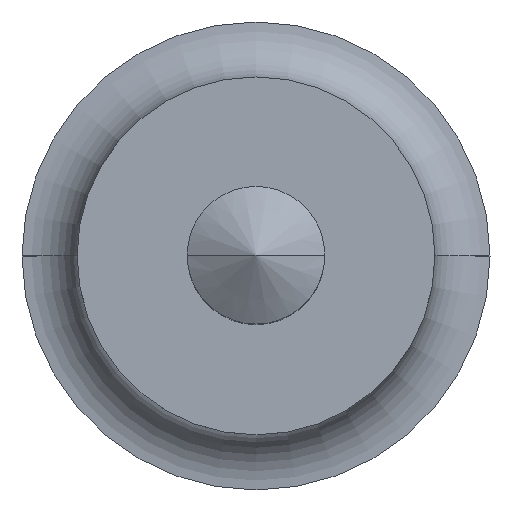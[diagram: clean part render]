
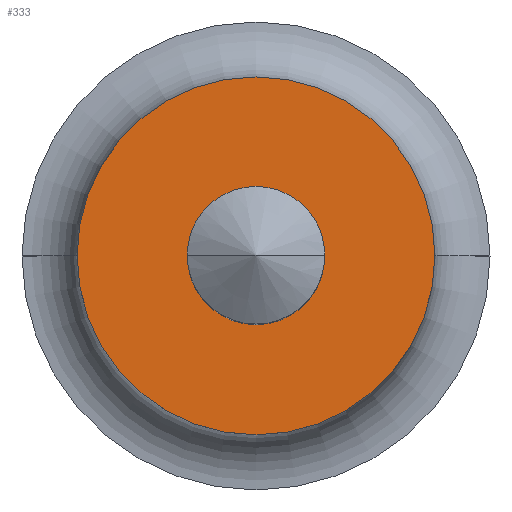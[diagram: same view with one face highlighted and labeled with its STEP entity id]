
A CAD part, top view. The second image highlights one B-rep face of the part: STEP entity #333.
In plain terms, the highlighted planar face has unit normal (0, 0, 1).
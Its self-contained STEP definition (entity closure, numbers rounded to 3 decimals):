
#5 = DIRECTION ( 'NONE',  ( 0., 0., 1. ) ) ;
#21 = EDGE_LOOP ( 'NONE', ( #165, #77 ) ) ;
#30 = CARTESIAN_POINT ( 'NONE',  ( -6.5, 0., 3. ) ) ;
#38 = EDGE_CURVE ( 'NONE', #335, #56, #269, .T. ) ;
#40 = DIRECTION ( 'NONE',  ( 1., 0., 0. ) ) ;
#44 = DIRECTION ( 'NONE',  ( 1., 0., 0. ) ) ;
#56 = VERTEX_POINT ( 'NONE', #408 ) ;
#57 = EDGE_LOOP ( 'NONE', ( #235, #108 ) ) ;
#59 = EDGE_CURVE ( 'NONE', #56, #335, #421, .T. ) ;
#63 = FACE_BOUND ( 'NONE', #57, .T. ) ;
#67 = CARTESIAN_POINT ( 'NONE',  ( 0., 0., 3. ) ) ;
#77 = ORIENTED_EDGE ( 'NONE', *, *, #292, .T. ) ;
#87 = AXIS2_PLACEMENT_3D ( 'NONE', #176, #407, #281 ) ;
#108 = ORIENTED_EDGE ( 'NONE', *, *, #59, .F. ) ;
#115 = CARTESIAN_POINT ( 'NONE',  ( 0., 0., 3. ) ) ;
#134 = DIRECTION ( 'NONE',  ( 1., 0., 0. ) ) ;
#139 = DIRECTION ( 'NONE',  ( 0., 0., 1. ) ) ;
#145 = CARTESIAN_POINT ( 'NONE',  ( 0., 0., 3. ) ) ;
#159 = FACE_OUTER_BOUND ( 'NONE', #21, .T. ) ;
#165 = ORIENTED_EDGE ( 'NONE', *, *, #296, .T. ) ;
#176 = CARTESIAN_POINT ( 'NONE',  ( 2.5, 0., 3. ) ) ;
#183 = DIRECTION ( 'NONE',  ( 0., 0., 1. ) ) ;
#189 = AXIS2_PLACEMENT_3D ( 'NONE', #243, #5, #40 ) ;
#208 = AXIS2_PLACEMENT_3D ( 'NONE', #67, #139, #134 ) ;
#230 = VERTEX_POINT ( 'NONE', #30 ) ;
#235 = ORIENTED_EDGE ( 'NONE', *, *, #38, .F. ) ;
#243 = CARTESIAN_POINT ( 'NONE',  ( 0., 0., 3. ) ) ;
#248 = DIRECTION ( 'NONE',  ( 1., 0., 0. ) ) ;
#252 = PLANE ( 'NONE',  #87 ) ;
#269 = CIRCLE ( 'NONE', #307, 2.5 ) ;
#281 = DIRECTION ( 'NONE',  ( 1., 0., 0. ) ) ;
#286 = CARTESIAN_POINT ( 'NONE',  ( 2.5, 0., 3. ) ) ;
#292 = EDGE_CURVE ( 'NONE', #230, #322, #402, .T. ) ;
#296 = EDGE_CURVE ( 'NONE', #322, #230, #329, .T. ) ;
#307 = AXIS2_PLACEMENT_3D ( 'NONE', #145, #312, #44 ) ;
#312 = DIRECTION ( 'NONE',  ( 0., 0., 1. ) ) ;
#322 = VERTEX_POINT ( 'NONE', #340 ) ;
#329 = CIRCLE ( 'NONE', #208, 6.5 ) ;
#333 = ADVANCED_FACE ( 'NONE', ( #159, #63 ), #252, .T. ) ;
#335 = VERTEX_POINT ( 'NONE', #286 ) ;
#340 = CARTESIAN_POINT ( 'NONE',  ( 6.5, 0., 3. ) ) ;
#385 = AXIS2_PLACEMENT_3D ( 'NONE', #115, #183, #248 ) ;
#402 = CIRCLE ( 'NONE', #189, 6.5 ) ;
#407 = DIRECTION ( 'NONE',  ( 0., 0., 1. ) ) ;
#408 = CARTESIAN_POINT ( 'NONE',  ( -2.5, 0., 3. ) ) ;
#421 = CIRCLE ( 'NONE', #385, 2.5 ) ;
